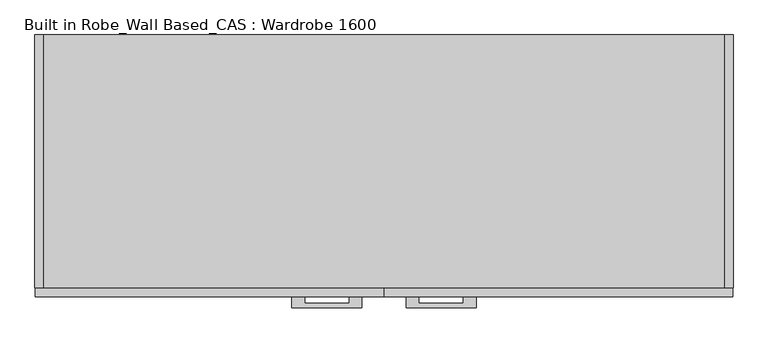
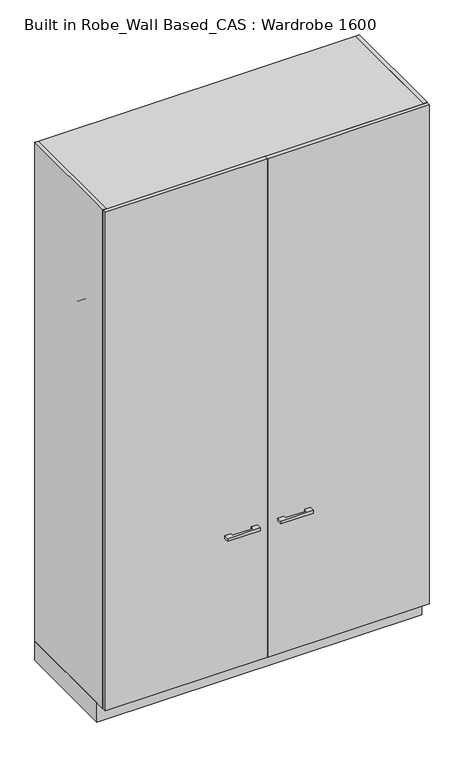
"""IFC4 building model written with IfcOpenShell, lengths in millimetres: furniture geometry, Built in Robe_Wall Based_CAS : Wardrobe 1600."""

from ifc_helpers import new_model, si_unit, point, frame, frame_2d, origin, origin_with_axes, place, context, project, spatial, polyline, circle_curve, trimmed, segment, composite_curve, outline, extrude, source, transform, mapped, element, save


def built_in_robe_wall_based_cas_wardrobe_1600_29df755a(model_context):
    return source(origin(), model_context, "Body", "SweptSolid", [
        extrude(outline(polyline([(925.0, 11.0), (-675.0, 11.0), (-675.0, 541.0), (-655.0, 541.0), (-655.0, 31.0), (905.0, 31.0), (905.0, 541.0), (925.0, 541.0), (925.0, 11.0)])), origin_with_axes(), (0.0, 0.0, 1.0), 100.0),
        extrude(outline(polyline([(176.0, -84.0), (176.0, -59.0), (205.0, -59.0), (205.0, -74.0), (307.0, -74.0), (307.0, -59.0), (336.0, -59.0), (336.0, -84.0), (176.0, -84.0)])), frame((0.0, 0.0, 792.5), z_axis=(0.0, 0.0, 1.0), x_axis=(1.0, 0.0, 0.0)), (0.0, 0.0, 1.0), 15.0),
        extrude(outline(polyline([(924.0, -59.0), (126.0, -59.0), (126.0, -39.0), (924.0, -39.0), (924.0, -59.0)])), frame((0.0, 0.0, 100.0), z_axis=(0.0, 0.0, 1.0), x_axis=(1.0, 0.0, 0.0)), (0.0, 0.0, 1.0), 2599.0),
        extrude(outline(polyline([(74.0, -84.0), (-86.0, -84.0), (-86.0, -59.0), (-57.0, -59.0), (-57.0, -74.0), (45.0, -74.0), (45.0, -59.0), (74.0, -59.0), (74.0, -84.0)])), frame((0.0, 0.0, 792.5), z_axis=(0.0, 0.0, 1.0), x_axis=(1.0, 0.0, 0.0)), (0.0, 0.0, 1.0), 15.0),
        extrude(outline(polyline([(-674.0, -59.0), (-674.0, -39.0), (124.0, -39.0), (124.0, -59.0), (-674.0, -59.0)])), frame((0.0, 0.0, 100.0), z_axis=(0.0, 0.0, 1.0), x_axis=(1.0, 0.0, 0.0)), (0.0, 0.0, 1.0), 2599.0),
        extrude(outline(composite_curve([segment(trimmed(circle_curve(frame_2d((231.0, 2060.0)), 37.5), [point((193.5, 2060.0))], [point((268.5, 2060.0))], False, "CARTESIAN"), True, "CONTINUOUS"), segment(trimmed(circle_curve(frame_2d((231.0, 2060.0)), 37.5), [point((268.5, 2060.0))], [point((193.5, 2060.0))], False, "CARTESIAN"), True, "CONTINUOUS")], self_intersect=False)), frame((-655.0, 0.0, 0.0), z_axis=(1.0, 0.0, 0.0), x_axis=(0.0, 1.0, 0.0)), (0.0, 0.0, 1.0), 10.0),
        extrude(outline(composite_curve([segment(trimmed(circle_curve(frame_2d((231.0, 2060.0)), 10.0), [point((241.0, 2060.0))], [point((221.0, 2060.0))], False, "CARTESIAN"), True, "CONTINUOUS"), segment(trimmed(circle_curve(frame_2d((231.0, 2060.0)), 10.0), [point((221.0, 2060.0))], [point((241.0, 2060.0))], False, "CARTESIAN"), True, "CONTINUOUS")], self_intersect=False)), frame((-645.0, 0.0, 0.0), z_axis=(1.0, 0.0, 0.0), x_axis=(0.0, 1.0, 0.0)), (0.0, 0.0, 1.0), 1540.0),
        extrude(outline(composite_curve([segment(trimmed(circle_curve(frame_2d((231.0, 2060.0)), 37.5), [point((193.5, 2060.0))], [point((268.5, 2060.0))], False, "CARTESIAN"), True, "CONTINUOUS"), segment(trimmed(circle_curve(frame_2d((231.0, 2060.0)), 37.5), [point((268.5, 2060.0))], [point((193.5, 2060.0))], False, "CARTESIAN"), True, "CONTINUOUS")], self_intersect=False)), frame((895.0, 0.0, 0.0), z_axis=(1.0, 0.0, 0.0), x_axis=(0.0, 1.0, 0.0)), (0.0, 0.0, 1.0), 10.0),
        extrude(outline(composite_curve([segment(trimmed(circle_curve(frame_2d((231.0, 1100.0)), 37.5), [point((193.5, 1100.0))], [point((268.5, 1100.0))], False, "CARTESIAN"), True, "CONTINUOUS"), segment(trimmed(circle_curve(frame_2d((231.0, 1100.0)), 37.5), [point((268.5, 1100.0))], [point((193.5, 1100.0))], False, "CARTESIAN"), True, "CONTINUOUS")], self_intersect=False)), frame((-655.0, 0.0, 0.0), z_axis=(1.0, 0.0, 0.0), x_axis=(0.0, 1.0, 0.0)), (0.0, 0.0, 1.0), 10.0),
        extrude(outline(composite_curve([segment(trimmed(circle_curve(frame_2d((231.0, 1100.0)), 10.0), [point((241.0, 1100.0))], [point((221.0, 1100.0))], False, "CARTESIAN"), True, "CONTINUOUS"), segment(trimmed(circle_curve(frame_2d((231.0, 1100.0)), 10.0), [point((221.0, 1100.0))], [point((241.0, 1100.0))], False, "CARTESIAN"), True, "CONTINUOUS")], self_intersect=False)), frame((-645.0, 0.0, 0.0), z_axis=(1.0, 0.0, 0.0), x_axis=(0.0, 1.0, 0.0)), (0.0, 0.0, 1.0), 1540.0),
        extrude(outline(composite_curve([segment(trimmed(circle_curve(frame_2d((231.0, 1100.0)), 37.5), [point((193.5, 1100.0))], [point((268.5, 1100.0))], False, "CARTESIAN"), True, "CONTINUOUS"), segment(trimmed(circle_curve(frame_2d((231.0, 1100.0)), 37.5), [point((268.5, 1100.0))], [point((193.5, 1100.0))], False, "CARTESIAN"), True, "CONTINUOUS")], self_intersect=False)), frame((895.0, 0.0, 0.0), z_axis=(1.0, 0.0, 0.0), x_axis=(0.0, 1.0, 0.0)), (0.0, 0.0, 1.0), 10.0),
        extrude(outline(polyline([(-655.0, 521.0), (905.0, 521.0), (905.0, -39.0), (-655.0, -39.0), (-655.0, 521.0)])), frame((0.0, 0.0, 100.0), z_axis=(0.0, 0.0, 1.0), x_axis=(1.0, 0.0, 0.0)), (0.0, 0.0, 1.0), 20.0),
        extrude(outline(polyline([(-655.0, 541.0), (905.0, 541.0), (905.0, -39.0), (-655.0, -39.0), (-655.0, 541.0)])), frame((0.0, 0.0, 2680.0), z_axis=(0.0, 0.0, 1.0), x_axis=(1.0, 0.0, 0.0)), (0.0, 0.0, 1.0), 20.0),
        extrude(outline(polyline([(-655.0, 541.0), (-655.0, -39.0), (-675.0, -39.0), (-675.0, 541.0), (-655.0, 541.0)])), frame((0.0, 0.0, 100.0), z_axis=(0.0, 0.0, 1.0), x_axis=(1.0, 0.0, 0.0)), (0.0, 0.0, 1.0), 2600.0),
        extrude(outline(polyline([(925.0, 541.0), (925.0, -39.0), (905.0, -39.0), (905.0, 541.0), (925.0, 541.0)])), frame((0.0, 0.0, 100.0), z_axis=(0.0, 0.0, 1.0), x_axis=(1.0, 0.0, 0.0)), (0.0, 0.0, 1.0), 2600.0),
        extrude(outline(polyline([(-655.0, 521.0), (-655.0, 541.0), (905.0, 541.0), (905.0, 521.0), (-655.0, 521.0)])), frame((0.0, 0.0, 100.0), z_axis=(0.0, 0.0, 1.0), x_axis=(1.0, 0.0, 0.0)), (0.0, 0.0, 1.0), 2580.0),
    ])


if __name__ == "__main__":
    model = new_model("IFC4")
    model_context = context("Model", 3, world=origin())
    ifc_project = project(units=[si_unit("LENGTHUNIT", "METRE", prefix="MILLI")], contexts=[model_context])
    site = spatial("IfcSite", under=ifc_project)
    building = spatial("IfcBuilding", under=site)
    placement = place(None, origin())
    built_in_robe_wall_based_cas_wardrobe_1600_shape = built_in_robe_wall_based_cas_wardrobe_1600_29df755a(model_context)
    element("IfcFurniture", 1, ObjectType="Built in Robe_Wall Based_CAS : Wardrobe 1600", at=placement, inside=building, context=model_context, shape_type="MappedRepresentation", body=[
        mapped(built_in_robe_wall_based_cas_wardrobe_1600_shape, transform((0.0, 0.0, 0.0), x_axis=(1.0, 0.0, 0.0), y_axis=(0.0, 1.0, 0.0), z_axis=(0.0, 0.0, 1.0))),
    ])
    save(model, "model.ifc")
